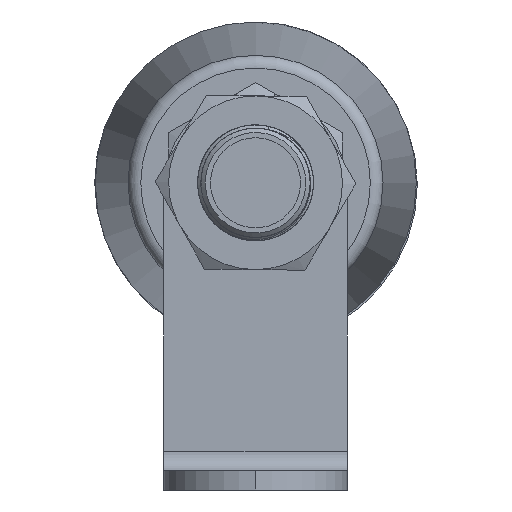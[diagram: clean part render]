
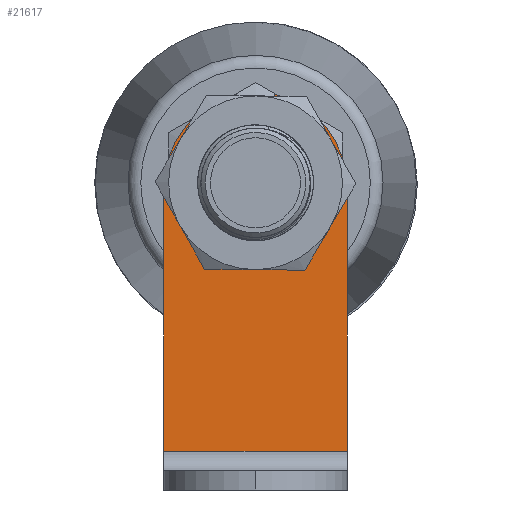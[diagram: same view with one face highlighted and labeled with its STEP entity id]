
A CAD part, front view. The second image highlights one B-rep face of the part: STEP entity #21617.
In plain terms, the highlighted planar face has unit normal (0, -1, 0).
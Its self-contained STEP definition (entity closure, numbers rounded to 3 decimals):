
#176 = LINE ( 'NONE', #1627, #17142 ) ;
#177 = CARTESIAN_POINT ( 'NONE',  ( 11.25, -3., 3. ) ) ;
#683 = VECTOR ( 'NONE', #6995, 1000. ) ;
#1043 = CIRCLE ( 'NONE', #13918, 15. ) ;
#1301 = LINE ( 'NONE', #8113, #3566 ) ;
#1381 = CARTESIAN_POINT ( 'NONE',  ( 15., -3., 47. ) ) ;
#1627 = CARTESIAN_POINT ( 'NONE',  ( 0., -3., 3. ) ) ;
#1658 = CARTESIAN_POINT ( 'NONE',  ( 11.25, -3., 56.481 ) ) ;
#1856 = VERTEX_POINT ( 'NONE', #4741 ) ;
#1914 = CARTESIAN_POINT ( 'NONE',  ( 17.25, -3., 3. ) ) ;
#2017 = ORIENTED_EDGE ( 'NONE', *, *, #10970, .T. ) ;
#3420 = CARTESIAN_POINT ( 'NONE',  ( 0., -3., 47. ) ) ;
#3557 = EDGE_CURVE ( 'NONE', #14033, #12619, #176, .T. ) ;
#3566 = VECTOR ( 'NONE', #6442, 1000. ) ;
#3752 = DIRECTION ( 'NONE',  ( 0., -1., 0. ) ) ;
#4395 = EDGE_CURVE ( 'NONE', #17838, #1856, #9614, .T. ) ;
#4741 = CARTESIAN_POINT ( 'NONE',  ( 17.25, -3., 61.524 ) ) ;
#5068 = LINE ( 'NONE', #6862, #20319 ) ;
#6245 = VERTEX_POINT ( 'NONE', #10053 ) ;
#6296 = VERTEX_POINT ( 'NONE', #10492 ) ;
#6442 = DIRECTION ( 'NONE',  ( 0., 0., -1. ) ) ;
#6667 = CARTESIAN_POINT ( 'NONE',  ( 28.5, -3., 47. ) ) ;
#6723 = CARTESIAN_POINT ( 'NONE',  ( 17.25, -3., 56.481 ) ) ;
#6778 = ORIENTED_EDGE ( 'NONE', *, *, #7107, .T. ) ;
#6862 = CARTESIAN_POINT ( 'NONE',  ( 28.5, -3., 6. ) ) ;
#6995 = DIRECTION ( 'NONE',  ( 0., 0., 1. ) ) ;
#7107 = EDGE_CURVE ( 'NONE', #6245, #14033, #1043, .T. ) ;
#8113 = CARTESIAN_POINT ( 'NONE',  ( 28.5, -3., 3. ) ) ;
#8199 = VECTOR ( 'NONE', #13653, 1000. ) ;
#8307 = DIRECTION ( 'NONE',  ( 0., -1., 0. ) ) ;
#8624 = DIRECTION ( 'NONE',  ( 0., 1., 0. ) ) ;
#8934 = AXIS2_PLACEMENT_3D ( 'NONE', #22042, #8624, #10203 ) ;
#9158 = ORIENTED_EDGE ( 'NONE', *, *, #17942, .F. ) ;
#9614 = CIRCLE ( 'NONE', #14261, 15. ) ;
#10053 = CARTESIAN_POINT ( 'NONE',  ( 11.25, -3., 61.524 ) ) ;
#10113 = DIRECTION ( 'NONE',  ( 0., 0., 1. ) ) ;
#10203 = DIRECTION ( 'NONE',  ( 0., 0., 1. ) ) ;
#10492 = CARTESIAN_POINT ( 'NONE',  ( 28.5, -3., 6. ) ) ;
#10576 = DIRECTION ( 'NONE',  ( 0., 0., 1. ) ) ;
#10796 = EDGE_CURVE ( 'NONE', #1856, #15937, #12299, .T. ) ;
#10970 = EDGE_CURVE ( 'NONE', #15937, #21928, #19638, .T. ) ;
#11781 = AXIS2_PLACEMENT_3D ( 'NONE', #15306, #13503, #20220 ) ;
#11999 = DIRECTION ( 'NONE',  ( 1., 0., 0. ) ) ;
#12299 = LINE ( 'NONE', #1914, #8199 ) ;
#12619 = VERTEX_POINT ( 'NONE', #17895 ) ;
#12830 = ORIENTED_EDGE ( 'NONE', *, *, #4395, .T. ) ;
#13503 = DIRECTION ( 'NONE',  ( 0., 1., 0. ) ) ;
#13653 = DIRECTION ( 'NONE',  ( 0., 0., -1. ) ) ;
#13704 = ORIENTED_EDGE ( 'NONE', *, *, #10796, .T. ) ;
#13918 = AXIS2_PLACEMENT_3D ( 'NONE', #1381, #8307, #10113 ) ;
#14033 = VERTEX_POINT ( 'NONE', #3420 ) ;
#14261 = AXIS2_PLACEMENT_3D ( 'NONE', #20859, #3752, #10576 ) ;
#14350 = EDGE_CURVE ( 'NONE', #21928, #6245, #15510, .T. ) ;
#15060 = DIRECTION ( 'NONE',  ( 0., 0., -1. ) ) ;
#15306 = CARTESIAN_POINT ( 'NONE',  ( 28.5, -3., 3. ) ) ;
#15347 = EDGE_CURVE ( 'NONE', #12619, #6296, #5068, .T. ) ;
#15510 = LINE ( 'NONE', #177, #683 ) ;
#15937 = VERTEX_POINT ( 'NONE', #6723 ) ;
#17142 = VECTOR ( 'NONE', #15060, 1000. ) ;
#17838 = VERTEX_POINT ( 'NONE', #6667 ) ;
#17895 = CARTESIAN_POINT ( 'NONE',  ( 0., -3., 6. ) ) ;
#17942 = EDGE_CURVE ( 'NONE', #17838, #6296, #1301, .T. ) ;
#18783 = FACE_OUTER_BOUND ( 'NONE', #19945, .T. ) ;
#18890 = PLANE ( 'NONE',  #11781 ) ;
#19638 = CIRCLE ( 'NONE', #8934, 9.25 ) ;
#19724 = ORIENTED_EDGE ( 'NONE', *, *, #14350, .T. ) ;
#19945 = EDGE_LOOP ( 'NONE', ( #2017, #19724, #6778, #20886, #20809, #9158, #12830, #13704 ) ) ;
#20220 = DIRECTION ( 'NONE',  ( 0., 0., 1. ) ) ;
#20319 = VECTOR ( 'NONE', #11999, 1000. ) ;
#20809 = ORIENTED_EDGE ( 'NONE', *, *, #15347, .T. ) ;
#20859 = CARTESIAN_POINT ( 'NONE',  ( 13.5, -3., 47. ) ) ;
#20886 = ORIENTED_EDGE ( 'NONE', *, *, #3557, .T. ) ;
#21617 = ADVANCED_FACE ( 'NONE', ( #18783 ), #18890, .F. ) ;
#21928 = VERTEX_POINT ( 'NONE', #1658 ) ;
#22042 = CARTESIAN_POINT ( 'NONE',  ( 14.25, -3., 47.731 ) ) ;
